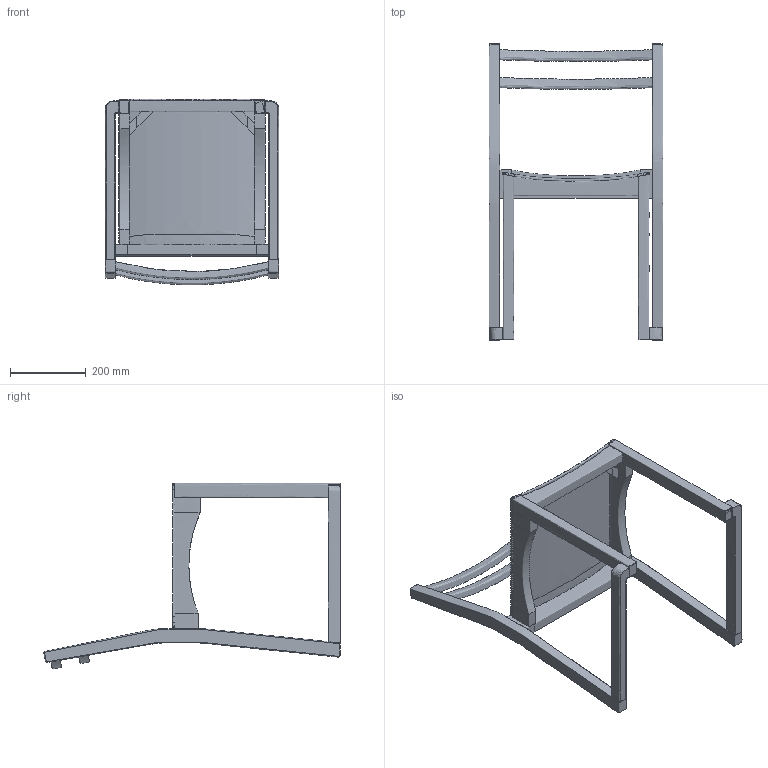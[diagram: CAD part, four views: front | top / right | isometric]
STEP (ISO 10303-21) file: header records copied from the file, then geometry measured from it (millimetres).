
FILE_DESCRIPTION(/* description */ (''),/* implementation_level */ '2;1');
FILE_NAME(/* name */ 'kinoshita_coccole_c131b.step',/* time_stamp */ '2026-10-07T15:45:03+09:00',/* author */ (''),/* organization */ (''),/* preprocessor_version */ 'ST-DEVELOPER v20.2',/* originating_system */ 'Autodesk Translation Framework v15.15.0.0',/* authorisation */ '');
FILE_SCHEMA (('AUTOMOTIVE_DESIGN { 1 0 10303 214 3 1 1 }'));
Products named in the file (1): 2026-09-14-15-40-37-379
Bounding box: 460 x 783.43 x 491.11 mm (x, y, z)
Volume: 6619586.8 mm3; surface area: 986268.3 mm2
Topology: 10 solids, 10 shells, 161 faces, 345 edges, 208 vertices
Faces by surface type: bspline 118, plane 43
Entity records: 41672 total; most frequent: CARTESIAN_POINT 39105, ORIENTED_EDGE 690, EDGE_CURVE 345, B_SPLINE_CURVE_WITH_KNOTS 285, VERTEX_POINT 208, EDGE_LOOP 167, FACE_OUTER_BOUND 161, ADVANCED_FACE 161
